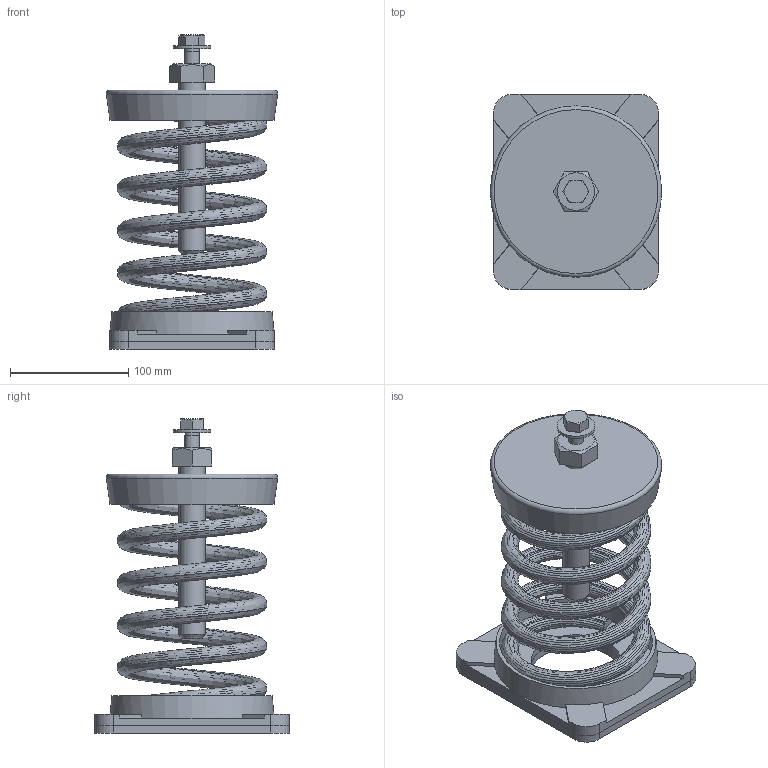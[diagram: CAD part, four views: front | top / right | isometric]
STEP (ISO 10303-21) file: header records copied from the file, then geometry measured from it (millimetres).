
FILE_DESCRIPTION(/* description */ (''),/* implementation_level */ '2;1');
FILE_NAME(/* name */ 'C:\001_Work\Designs\SLF ASSEMBLIES\SLF-132.stp',/* time_stamp */ '2016-01-10T15:39:27-05:00',/* author */ ('rramoutar'),/* organization */ ('Mason Industries Inc.'),/* preprocessor_version */ 'ST-DEVELOPER v15.6',/* originating_system */ 'Autodesk Inventor 2015',/* authorisation */ '');
FILE_SCHEMA (('CONFIG_CONTROL_DESIGN'));
Length unit declared in the file: inch
Products named in the file (1): SLF-132
Bounding box: 145.09 x 165.1 x 265.79 mm (x, y, z)
Volume: 598817.3 mm3; surface area: 341534.6 mm2
Topology: 7 solids, 7 shells, 156 faces, 383 edges, 250 vertices
Faces by surface type: plane 93, cylinder 25, bspline 22, cone 14, torus 2
Full cylindrical faces by diameter (mm): 12.7 x6, 13.487 x1, 19.05 x1, 19.447 x1, 22.225 x1, 31.75 x1, 76.2 x2, 129.381 x2
Entity records: 13904 total; most frequent: CARTESIAN_POINT 10331, ORIENTED_EDGE 702, DIRECTION 628, EDGE_CURVE 351, VERTEX_POINT 243, AXIS2_PLACEMENT_3D 232, EDGE_LOOP 200, LINE 164
